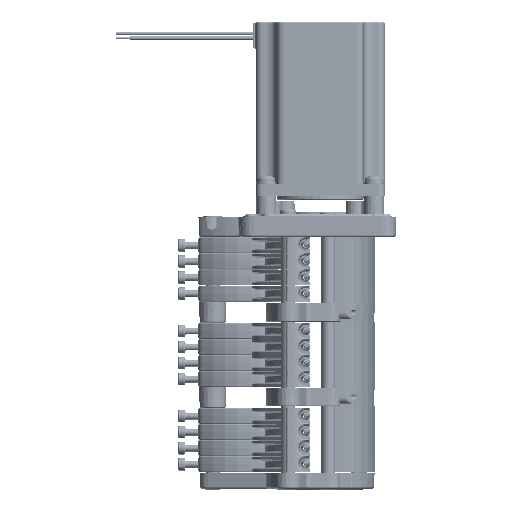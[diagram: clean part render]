
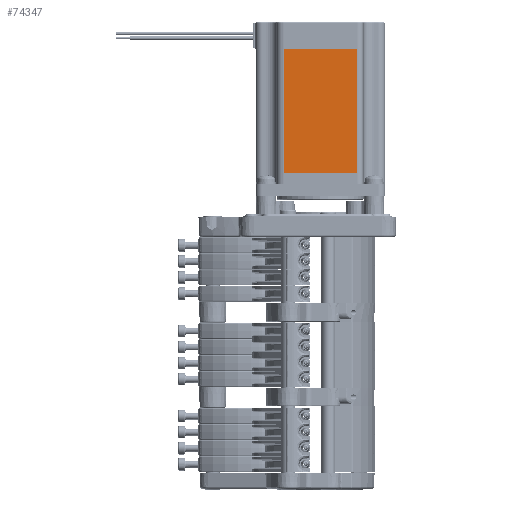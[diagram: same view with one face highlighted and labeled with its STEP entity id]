
A CAD part, left-side view. The second image highlights one B-rep face of the part: STEP entity #74347.
In plain terms, the highlighted planar face has unit normal (-1, 0, 0).
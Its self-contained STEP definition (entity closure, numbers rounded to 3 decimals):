
#2422 = LINE ( 'NONE', #176862, #89620 ) ;
#4248 = CARTESIAN_POINT ( 'NONE',  ( -29.95, 14.908, 28. ) ) ;
#5878 = DIRECTION ( 'NONE',  ( 0., 0., -1. ) ) ;
#6257 = ORIENTED_EDGE ( 'NONE', *, *, #108445, .T. ) ;
#10852 = PLANE ( 'NONE',  #31057 ) ;
#15445 = DIRECTION ( 'NONE',  ( 1., 0., 0. ) ) ;
#21330 = CARTESIAN_POINT ( 'NONE',  ( -29.95, -16.924, 82. ) ) ;
#24123 = VERTEX_POINT ( 'NONE', #173574 ) ;
#26802 = VERTEX_POINT ( 'NONE', #21330 ) ;
#26892 = CARTESIAN_POINT ( 'NONE',  ( -29.95, 14.924, 5.605 ) ) ;
#27101 = CARTESIAN_POINT ( 'NONE',  ( -29.95, 14.908, 82. ) ) ;
#31057 = AXIS2_PLACEMENT_3D ( 'NONE', #86389, #15445, #36424 ) ;
#33173 = EDGE_CURVE ( 'NONE', #75434, #36371, #57944, .T. ) ;
#33246 = CARTESIAN_POINT ( 'NONE',  ( -29.95, -16.9, 82. ) ) ;
#36371 = VERTEX_POINT ( 'NONE', #188725 ) ;
#36424 = DIRECTION ( 'NONE',  ( 0., 0., 1. ) ) ;
#42722 = ORIENTED_EDGE ( 'NONE', *, *, #156226, .F. ) ;
#43265 = B_SPLINE_CURVE_WITH_KNOTS ( 'NONE', 3,
 ( #59409, #231276, #119962, #98984 ),
 .UNSPECIFIED., .F., .F.,
 ( 4, 4 ),
 ( 0., 1. ),
 .UNSPECIFIED. ) ;
#47840 = EDGE_LOOP ( 'NONE', ( #215807, #6257, #42722, #146958, #174043, #215678, #235561, #222640 ) ) ;
#57944 = B_SPLINE_CURVE_WITH_KNOTS ( 'NONE', 3,
 ( #65495, #102668, #27101, #82878 ),
 .UNSPECIFIED., .F., .F.,
 ( 4, 4 ),
 ( 0., 1. ),
 .UNSPECIFIED. ) ;
#59409 = CARTESIAN_POINT ( 'NONE',  ( -29.95, 14.9, 28. ) ) ;
#64062 = LINE ( 'NONE', #26892, #95478 ) ;
#65495 = CARTESIAN_POINT ( 'NONE',  ( -29.95, 14.924, 82. ) ) ;
#66063 = CARTESIAN_POINT ( 'NONE',  ( -29.95, 14.9, 28. ) ) ;
#74347 = ADVANCED_FACE ( 'NONE', ( #128168 ), #10852, .F. ) ;
#75434 = VERTEX_POINT ( 'NONE', #222149 ) ;
#78760 = CARTESIAN_POINT ( 'NONE',  ( -29.95, -16.9, 28. ) ) ;
#82409 = VERTEX_POINT ( 'NONE', #133940 ) ;
#82878 = CARTESIAN_POINT ( 'NONE',  ( -29.95, 14.9, 82. ) ) ;
#85609 = EDGE_CURVE ( 'NONE', #36371, #151410, #100342, .T. ) ;
#86389 = CARTESIAN_POINT ( 'NONE',  ( -29.95, -20.7, 82. ) ) ;
#88545 = EDGE_CURVE ( 'NONE', #216819, #97259, #43265, .T. ) ;
#89620 = VECTOR ( 'NONE', #97765, 1000. ) ;
#95478 = VECTOR ( 'NONE', #5878, 1000. ) ;
#97259 = VERTEX_POINT ( 'NONE', #78760 ) ;
#97765 = DIRECTION ( 'NONE',  ( 0., 0., 1. ) ) ;
#98984 = CARTESIAN_POINT ( 'NONE',  ( -29.95, -16.9, 28. ) ) ;
#100342 = B_SPLINE_CURVE_WITH_KNOTS ( 'NONE', 3,
 ( #181527, #218585, #102376, #103573 ),
 .UNSPECIFIED., .F., .F.,
 ( 4, 4 ),
 ( 0., 1. ),
 .UNSPECIFIED. ) ;
#102376 = CARTESIAN_POINT ( 'NONE',  ( -29.95, -6.3, 82. ) ) ;
#102668 = CARTESIAN_POINT ( 'NONE',  ( -29.95, 14.916, 82. ) ) ;
#103573 = CARTESIAN_POINT ( 'NONE',  ( -29.95, -16.9, 82. ) ) ;
#106369 = CARTESIAN_POINT ( 'NONE',  ( -29.95, -16.916, 82. ) ) ;
#108445 = EDGE_CURVE ( 'NONE', #82409, #26802, #2422, .T. ) ;
#115573 = EDGE_CURVE ( 'NONE', #24123, #216819, #233562, .T. ) ;
#119962 = CARTESIAN_POINT ( 'NONE',  ( -29.95, -6.3, 28. ) ) ;
#127436 = CARTESIAN_POINT ( 'NONE',  ( -29.95, -16.908, 82. ) ) ;
#127800 = B_SPLINE_CURVE_WITH_KNOTS ( 'NONE', 3,
 ( #33246, #127436, #106369, #148438 ),
 .UNSPECIFIED., .F., .F.,
 ( 4, 4 ),
 ( 0., 1. ),
 .UNSPECIFIED. ) ;
#128168 = FACE_OUTER_BOUND ( 'NONE', #47840, .T. ) ;
#132484 = EDGE_CURVE ( 'NONE', #97259, #82409, #206027, .T. ) ;
#133880 = CARTESIAN_POINT ( 'NONE',  ( -29.95, -16.908, 28. ) ) ;
#133940 = CARTESIAN_POINT ( 'NONE',  ( -29.95, -16.924, 28. ) ) ;
#146958 = ORIENTED_EDGE ( 'NONE', *, *, #85609, .F. ) ;
#148147 = CARTESIAN_POINT ( 'NONE',  ( -29.95, -16.9, 82. ) ) ;
#148438 = CARTESIAN_POINT ( 'NONE',  ( -29.95, -16.924, 82. ) ) ;
#151410 = VERTEX_POINT ( 'NONE', #148147 ) ;
#156226 = EDGE_CURVE ( 'NONE', #151410, #26802, #127800, .T. ) ;
#157065 = EDGE_CURVE ( 'NONE', #75434, #24123, #64062, .T. ) ;
#168520 = CARTESIAN_POINT ( 'NONE',  ( -29.95, -16.9, 28. ) ) ;
#173574 = CARTESIAN_POINT ( 'NONE',  ( -29.95, 14.924, 28. ) ) ;
#174043 = ORIENTED_EDGE ( 'NONE', *, *, #33173, .F. ) ;
#176862 = CARTESIAN_POINT ( 'NONE',  ( -29.95, -16.924, 5.605 ) ) ;
#178666 = CARTESIAN_POINT ( 'NONE',  ( -29.95, 14.924, 28. ) ) ;
#181527 = CARTESIAN_POINT ( 'NONE',  ( -29.95, 14.9, 82. ) ) ;
#187037 = CARTESIAN_POINT ( 'NONE',  ( -29.95, -16.916, 28. ) ) ;
#188725 = CARTESIAN_POINT ( 'NONE',  ( -29.95, 14.9, 82. ) ) ;
#203140 = CARTESIAN_POINT ( 'NONE',  ( -29.95, 14.9, 28. ) ) ;
#204356 = CARTESIAN_POINT ( 'NONE',  ( -29.95, -16.924, 28. ) ) ;
#206027 = B_SPLINE_CURVE_WITH_KNOTS ( 'NONE', 3,
 ( #168520, #133880, #187037, #204356 ),
 .UNSPECIFIED., .F., .F.,
 ( 4, 4 ),
 ( 0., 1. ),
 .UNSPECIFIED. ) ;
#214509 = CARTESIAN_POINT ( 'NONE',  ( -29.95, 14.916, 28. ) ) ;
#215678 = ORIENTED_EDGE ( 'NONE', *, *, #157065, .T. ) ;
#215807 = ORIENTED_EDGE ( 'NONE', *, *, #132484, .T. ) ;
#216819 = VERTEX_POINT ( 'NONE', #203140 ) ;
#218585 = CARTESIAN_POINT ( 'NONE',  ( -29.95, 4.3, 82. ) ) ;
#222149 = CARTESIAN_POINT ( 'NONE',  ( -29.95, 14.924, 82. ) ) ;
#222640 = ORIENTED_EDGE ( 'NONE', *, *, #88545, .T. ) ;
#231276 = CARTESIAN_POINT ( 'NONE',  ( -29.95, 4.3, 28. ) ) ;
#233562 = B_SPLINE_CURVE_WITH_KNOTS ( 'NONE', 3,
 ( #178666, #214509, #4248, #66063 ),
 .UNSPECIFIED., .F., .F.,
 ( 4, 4 ),
 ( 0., 1. ),
 .UNSPECIFIED. ) ;
#235561 = ORIENTED_EDGE ( 'NONE', *, *, #115573, .T. ) ;
